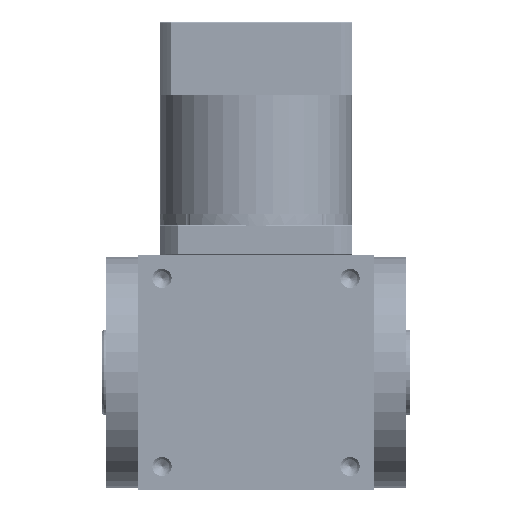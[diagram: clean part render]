
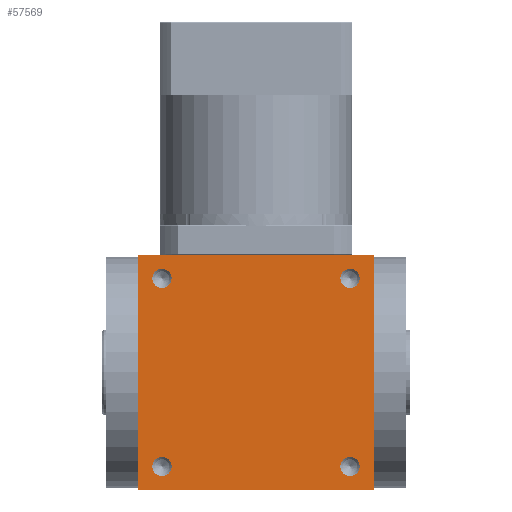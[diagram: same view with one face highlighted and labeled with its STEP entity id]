
A CAD part, front view. The second image highlights one B-rep face of the part: STEP entity #57569.
In plain terms, the highlighted planar face has unit normal (0, -1, 0).
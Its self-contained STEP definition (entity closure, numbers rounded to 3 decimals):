
#1509 = DIRECTION ( 'NONE',  ( -1., 0., 0. ) ) ;
#2284 = ORIENTED_EDGE ( 'NONE', *, *, #108037, .F. ) ;
#3006 = CIRCLE ( 'NONE', #29914, 4.5 ) ;
#4479 = EDGE_LOOP ( 'NONE', ( #81780, #7081 ) ) ;
#5105 = DIRECTION ( 'NONE',  ( 0., -1., 0. ) ) ;
#7081 = ORIENTED_EDGE ( 'NONE', *, *, #111520, .F. ) ;
#7263 = DIRECTION ( 'NONE',  ( 0., -1., 0. ) ) ;
#7658 = VERTEX_POINT ( 'NONE', #11004 ) ;
#9016 = CARTESIAN_POINT ( 'NONE',  ( 44.924, -57.519, 89. ) ) ;
#9451 = DIRECTION ( 'NONE',  ( -1., 0., 0. ) ) ;
#9955 = VERTEX_POINT ( 'NONE', #26508 ) ;
#10976 = VECTOR ( 'NONE', #84085, 1000. ) ;
#11004 = CARTESIAN_POINT ( 'NONE',  ( -65.076, -57.519, 199. ) ) ;
#12280 = EDGE_CURVE ( 'NONE', #107673, #110109, #21279, .T. ) ;
#17616 = EDGE_CURVE ( 'NONE', #9955, #98664, #115604, .T. ) ;
#17711 = VERTEX_POINT ( 'NONE', #102593 ) ;
#18273 = CIRCLE ( 'NONE', #20167, 4.5 ) ;
#18349 = EDGE_CURVE ( 'NONE', #36784, #35998, #89617, .T. ) ;
#18439 = LINE ( 'NONE', #55109, #23279 ) ;
#19410 = CARTESIAN_POINT ( 'NONE',  ( -54.076, -57.519, 100. ) ) ;
#20167 = AXIS2_PLACEMENT_3D ( 'NONE', #79304, #21668, #115937 ) ;
#21279 = CIRCLE ( 'NONE', #75051, 4.5 ) ;
#21668 = DIRECTION ( 'NONE',  ( 0., -1., 0. ) ) ;
#23279 = VECTOR ( 'NONE', #9451, 1000. ) ;
#24818 = EDGE_LOOP ( 'NONE', ( #59493, #46105 ) ) ;
#25437 = VERTEX_POINT ( 'NONE', #28886 ) ;
#26004 = AXIS2_PLACEMENT_3D ( 'NONE', #19410, #56057, #91529 ) ;
#26508 = CARTESIAN_POINT ( 'NONE',  ( 29.424, -57.519, 100. ) ) ;
#28886 = CARTESIAN_POINT ( 'NONE',  ( 38.424, -57.519, 188. ) ) ;
#29914 = AXIS2_PLACEMENT_3D ( 'NONE', #36380, #73016, #63977 ) ;
#30966 = PLANE ( 'NONE',  #33724 ) ;
#31285 = CARTESIAN_POINT ( 'NONE',  ( -65.076, -57.519, 199. ) ) ;
#33724 = AXIS2_PLACEMENT_3D ( 'NONE', #94082, #65239, #37613 ) ;
#33871 = DIRECTION ( 'NONE',  ( 0., 0., 1. ) ) ;
#35998 = VERTEX_POINT ( 'NONE', #74769 ) ;
#36380 = CARTESIAN_POINT ( 'NONE',  ( 33.924, -57.519, 188. ) ) ;
#36593 = ORIENTED_EDGE ( 'NONE', *, *, #84746, .F. ) ;
#36784 = VERTEX_POINT ( 'NONE', #68836 ) ;
#37568 = CARTESIAN_POINT ( 'NONE',  ( 33.924, -57.519, 188. ) ) ;
#37613 = DIRECTION ( 'NONE',  ( 1., 0., 0. ) ) ;
#38805 = EDGE_CURVE ( 'NONE', #94920, #7658, #97576, .T. ) ;
#39123 = DIRECTION ( 'NONE',  ( 1., 0., 0. ) ) ;
#41764 = DIRECTION ( 'NONE',  ( -1., 0., 0. ) ) ;
#42516 = ORIENTED_EDGE ( 'NONE', *, *, #82595, .F. ) ;
#42722 = EDGE_LOOP ( 'NONE', ( #2284, #102782 ) ) ;
#43940 = DIRECTION ( 'NONE',  ( -1., 0., 0. ) ) ;
#44418 = DIRECTION ( 'NONE',  ( -1., 0., 0. ) ) ;
#46045 = DIRECTION ( 'NONE',  ( -1., 0., 0. ) ) ;
#46105 = ORIENTED_EDGE ( 'NONE', *, *, #56492, .F. ) ;
#46289 = VECTOR ( 'NONE', #33871, 1000. ) ;
#47018 = VECTOR ( 'NONE', #39123, 1000. ) ;
#47818 = CARTESIAN_POINT ( 'NONE',  ( -54.076, -57.519, 100. ) ) ;
#48417 = FACE_BOUND ( 'NONE', #42722, .T. ) ;
#48484 = CARTESIAN_POINT ( 'NONE',  ( -58.576, -57.519, 188. ) ) ;
#55109 = CARTESIAN_POINT ( 'NONE',  ( -65.076, -57.519, 89. ) ) ;
#56057 = DIRECTION ( 'NONE',  ( 0., -1., 0. ) ) ;
#56492 = EDGE_CURVE ( 'NONE', #98664, #9955, #18273, .T. ) ;
#57569 = ADVANCED_FACE ( 'NONE', ( #48417, #57993, #113275, #102473, #103069 ), #30966, .F. ) ;
#57993 = FACE_BOUND ( 'NONE', #118801, .T. ) ;
#58308 = LINE ( 'NONE', #31285, #47018 ) ;
#59493 = ORIENTED_EDGE ( 'NONE', *, *, #17616, .F. ) ;
#61906 = EDGE_CURVE ( 'NONE', #17711, #90092, #93110, .T. ) ;
#62749 = CARTESIAN_POINT ( 'NONE',  ( 38.424, -57.519, 100. ) ) ;
#62775 = AXIS2_PLACEMENT_3D ( 'NONE', #47818, #75433, #46045 ) ;
#63781 = AXIS2_PLACEMENT_3D ( 'NONE', #81035, #72006, #44418 ) ;
#63977 = DIRECTION ( 'NONE',  ( -1., 0., 0. ) ) ;
#64594 = CIRCLE ( 'NONE', #95307, 4.5 ) ;
#65195 = DIRECTION ( 'NONE',  ( 0., -1., 0. ) ) ;
#65239 = DIRECTION ( 'NONE',  ( 0., 1., 0. ) ) ;
#65481 = CARTESIAN_POINT ( 'NONE',  ( -49.576, -57.519, 188. ) ) ;
#68836 = CARTESIAN_POINT ( 'NONE',  ( -49.576, -57.519, 100. ) ) ;
#70594 = ORIENTED_EDGE ( 'NONE', *, *, #18349, .F. ) ;
#72006 = DIRECTION ( 'NONE',  ( 0., -1., 0. ) ) ;
#72704 = ORIENTED_EDGE ( 'NONE', *, *, #61906, .F. ) ;
#73016 = DIRECTION ( 'NONE',  ( 0., -1., 0. ) ) ;
#74769 = CARTESIAN_POINT ( 'NONE',  ( -58.576, -57.519, 100. ) ) ;
#75051 = AXIS2_PLACEMENT_3D ( 'NONE', #87405, #5105, #41764 ) ;
#75433 = DIRECTION ( 'NONE',  ( 0., -1., 0. ) ) ;
#77085 = CARTESIAN_POINT ( 'NONE',  ( -65.076, -57.519, 89. ) ) ;
#79304 = CARTESIAN_POINT ( 'NONE',  ( 33.924, -57.519, 100. ) ) ;
#81035 = CARTESIAN_POINT ( 'NONE',  ( 33.924, -57.519, 100. ) ) ;
#81780 = ORIENTED_EDGE ( 'NONE', *, *, #12280, .F. ) ;
#82595 = EDGE_CURVE ( 'NONE', #35998, #36784, #87387, .T. ) ;
#84085 = DIRECTION ( 'NONE',  ( 0., 0., -1. ) ) ;
#84746 = EDGE_CURVE ( 'NONE', #7658, #17711, #58308, .T. ) ;
#87387 = CIRCLE ( 'NONE', #26004, 4.5 ) ;
#87405 = CARTESIAN_POINT ( 'NONE',  ( -54.076, -57.519, 188. ) ) ;
#87947 = CARTESIAN_POINT ( 'NONE',  ( 44.924, -57.519, 89. ) ) ;
#89564 = CARTESIAN_POINT ( 'NONE',  ( -54.076, -57.519, 188. ) ) ;
#89617 = CIRCLE ( 'NONE', #62775, 4.5 ) ;
#90092 = VERTEX_POINT ( 'NONE', #87947 ) ;
#90330 = CARTESIAN_POINT ( 'NONE',  ( -65.076, -57.519, 89. ) ) ;
#90678 = VERTEX_POINT ( 'NONE', #104493 ) ;
#91529 = DIRECTION ( 'NONE',  ( -1., 0., 0. ) ) ;
#91629 = AXIS2_PLACEMENT_3D ( 'NONE', #89564, #7263, #43940 ) ;
#92822 = ORIENTED_EDGE ( 'NONE', *, *, #38805, .F. ) ;
#93110 = LINE ( 'NONE', #9016, #10976 ) ;
#94082 = CARTESIAN_POINT ( 'NONE',  ( -10.076, -57.519, 144. ) ) ;
#94920 = VERTEX_POINT ( 'NONE', #77085 ) ;
#95307 = AXIS2_PLACEMENT_3D ( 'NONE', #37568, #65195, #1509 ) ;
#97576 = LINE ( 'NONE', #90330, #46289 ) ;
#98664 = VERTEX_POINT ( 'NONE', #62749 ) ;
#99148 = ORIENTED_EDGE ( 'NONE', *, *, #103885, .F. ) ;
#102473 = FACE_BOUND ( 'NONE', #24818, .T. ) ;
#102593 = CARTESIAN_POINT ( 'NONE',  ( 44.924, -57.519, 199. ) ) ;
#102782 = ORIENTED_EDGE ( 'NONE', *, *, #110263, .F. ) ;
#103069 = FACE_OUTER_BOUND ( 'NONE', #116024, .T. ) ;
#103885 = EDGE_CURVE ( 'NONE', #90092, #94920, #18439, .T. ) ;
#104493 = CARTESIAN_POINT ( 'NONE',  ( 29.424, -57.519, 188. ) ) ;
#107673 = VERTEX_POINT ( 'NONE', #48484 ) ;
#108037 = EDGE_CURVE ( 'NONE', #90678, #25437, #3006, .T. ) ;
#110109 = VERTEX_POINT ( 'NONE', #65481 ) ;
#110263 = EDGE_CURVE ( 'NONE', #25437, #90678, #64594, .T. ) ;
#110733 = CIRCLE ( 'NONE', #91629, 4.5 ) ;
#111520 = EDGE_CURVE ( 'NONE', #110109, #107673, #110733, .T. ) ;
#113275 = FACE_BOUND ( 'NONE', #4479, .T. ) ;
#115604 = CIRCLE ( 'NONE', #63781, 4.5 ) ;
#115937 = DIRECTION ( 'NONE',  ( -1., 0., 0. ) ) ;
#116024 = EDGE_LOOP ( 'NONE', ( #92822, #99148, #72704, #36593 ) ) ;
#118801 = EDGE_LOOP ( 'NONE', ( #42516, #70594 ) ) ;
